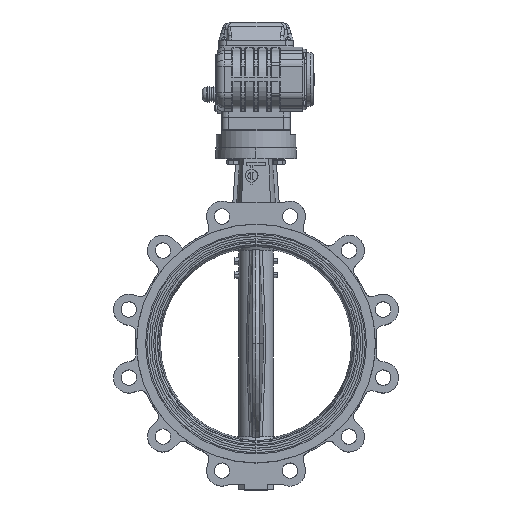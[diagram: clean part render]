
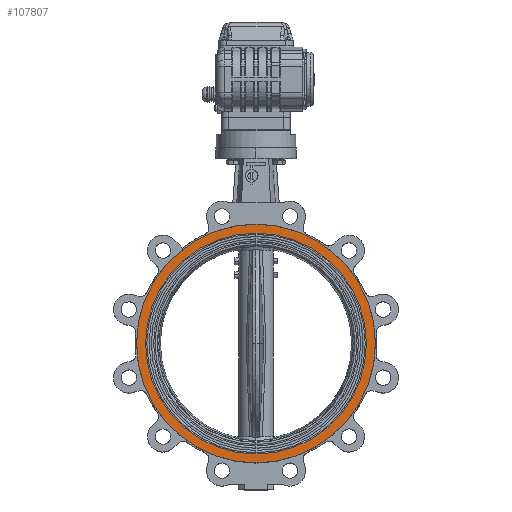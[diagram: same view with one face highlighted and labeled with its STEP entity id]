
A CAD part, top view. The second image highlights one B-rep face of the part: STEP entity #107807.
In plain terms, the highlighted planar face has unit normal (0, 0, 1).
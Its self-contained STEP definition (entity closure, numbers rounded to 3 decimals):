
#1902 = DIRECTION ( 'NONE',  ( 0., 0., 1. ) ) ;
#7382 = ORIENTED_EDGE ( 'NONE', *, *, #54739, .T. ) ;
#9673 = DIRECTION ( 'NONE',  ( 0., 1., 0. ) ) ;
#10500 = CARTESIAN_POINT ( 'NONE',  ( -172., 0., 38.5 ) ) ;
#13971 = ORIENTED_EDGE ( 'NONE', *, *, #28185, .T. ) ;
#17471 = EDGE_LOOP ( 'NONE', ( #48654, #7382 ) ) ;
#18288 = DIRECTION ( 'NONE',  ( 0., 0., -1. ) ) ;
#20406 = DIRECTION ( 'NONE',  ( 1., 0., 0. ) ) ;
#27964 = CARTESIAN_POINT ( 'NONE',  ( 172., 0., 38.5 ) ) ;
#28185 = EDGE_CURVE ( 'NONE', #92038, #102419, #41452, .T. ) ;
#28595 = CARTESIAN_POINT ( 'NONE',  ( 0., 0., 38.5 ) ) ;
#28679 = CARTESIAN_POINT ( 'NONE',  ( 0., 0., 38.5 ) ) ;
#29041 = EDGE_CURVE ( 'NONE', #102419, #92038, #32789, .T. ) ;
#32789 = CIRCLE ( 'NONE', #57447, 186. ) ;
#33611 = CARTESIAN_POINT ( 'NONE',  ( 0., -186., 38.5 ) ) ;
#34572 = CIRCLE ( 'NONE', #76889, 172. ) ;
#36337 = CIRCLE ( 'NONE', #45078, 172. ) ;
#41452 = CIRCLE ( 'NONE', #53775, 186. ) ;
#45078 = AXIS2_PLACEMENT_3D ( 'NONE', #60286, #18288, #51981 ) ;
#45840 = AXIS2_PLACEMENT_3D ( 'NONE', #28679, #96187, #20406 ) ;
#48654 = ORIENTED_EDGE ( 'NONE', *, *, #73434, .T. ) ;
#51981 = DIRECTION ( 'NONE',  ( 1., 0., 0. ) ) ;
#53775 = AXIS2_PLACEMENT_3D ( 'NONE', #95361, #1902, #9673 ) ;
#54739 = EDGE_CURVE ( 'NONE', #56553, #73968, #34572, .T. ) ;
#55699 = FACE_BOUND ( 'NONE', #17471, .T. ) ;
#56243 = CARTESIAN_POINT ( 'NONE',  ( 0., 186., 38.5 ) ) ;
#56553 = VERTEX_POINT ( 'NONE', #10500 ) ;
#57447 = AXIS2_PLACEMENT_3D ( 'NONE', #103791, #105396, #78927 ) ;
#60286 = CARTESIAN_POINT ( 'NONE',  ( 0., 0., 38.5 ) ) ;
#62340 = DIRECTION ( 'NONE',  ( 1., 0., 0. ) ) ;
#62465 = EDGE_LOOP ( 'NONE', ( #13971, #95444 ) ) ;
#71306 = PLANE ( 'NONE',  #45840 ) ;
#73434 = EDGE_CURVE ( 'NONE', #73968, #56553, #36337, .T. ) ;
#73968 = VERTEX_POINT ( 'NONE', #27964 ) ;
#76889 = AXIS2_PLACEMENT_3D ( 'NONE', #28595, #95000, #62340 ) ;
#78927 = DIRECTION ( 'NONE',  ( 0., 1., 0. ) ) ;
#92038 = VERTEX_POINT ( 'NONE', #56243 ) ;
#95000 = DIRECTION ( 'NONE',  ( 0., 0., -1. ) ) ;
#95361 = CARTESIAN_POINT ( 'NONE',  ( 0., 0., 38.5 ) ) ;
#95444 = ORIENTED_EDGE ( 'NONE', *, *, #29041, .T. ) ;
#96187 = DIRECTION ( 'NONE',  ( 0., 0., 1. ) ) ;
#102419 = VERTEX_POINT ( 'NONE', #33611 ) ;
#103791 = CARTESIAN_POINT ( 'NONE',  ( 0., 0., 38.5 ) ) ;
#105396 = DIRECTION ( 'NONE',  ( 0., 0., 1. ) ) ;
#106616 = FACE_OUTER_BOUND ( 'NONE', #62465, .T. ) ;
#107807 = ADVANCED_FACE ( 'NONE', ( #55699, #106616 ), #71306, .T. ) ;
